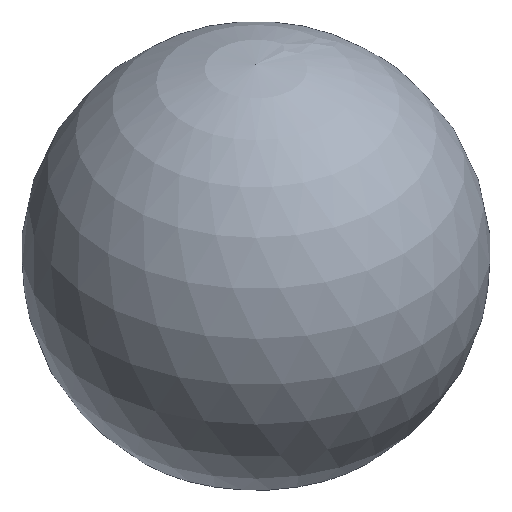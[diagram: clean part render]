
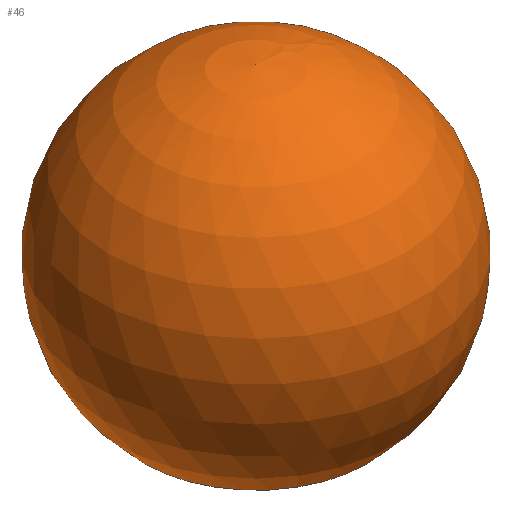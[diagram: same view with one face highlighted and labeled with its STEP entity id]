
A CAD part, isometric view. The second image highlights one B-rep face of the part: STEP entity #46.
In plain terms, the highlighted spherical face has radius 15.875 mm.
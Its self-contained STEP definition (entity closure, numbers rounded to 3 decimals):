
#20=CARTESIAN_POINT('',(0.,0.,11.775));
#21=DIRECTION('',(1.,0.,0.));
#22=DIRECTION('',(0.,0.,1.));
#23=AXIS2_PLACEMENT_3D('',#20,#22,#21);
#24=SPHERICAL_SURFACE('',#23,15.875);
#25=CARTESIAN_POINT('',(10.647,0.,0.));
#26=VERTEX_POINT('',#25);
#27=CARTESIAN_POINT('',(0.,0.,27.65));
#28=VERTEX_POINT('',#27);
#29=CARTESIAN_POINT('',(0.,0.,11.775));
#30=DIRECTION('',(0.671,0.,-0.742));
#31=DIRECTION('',(0.,-1.,0.));
#32=AXIS2_PLACEMENT_3D('',#29,#31,#30);
#33=CIRCLE('',#32,15.875);
#34=EDGE_CURVE('',#26,#28,#33,.T.);
#35=ORIENTED_EDGE('E1',*,*,#34,.T.);
#36=ORIENTED_EDGE('E2',*,*,#34,.F.);
#37=CARTESIAN_POINT('',(0.,0.,0.));
#38=DIRECTION('',(1.,-0.,-0.));
#39=DIRECTION('',(0.,-0.,1.));
#40=AXIS2_PLACEMENT_3D('',#37,#39,#38);
#41=CIRCLE('',#40,10.647);
#42=EDGE_CURVE('',#26,#26,#41,.T.);
#43=ORIENTED_EDGE('E3',*,*,#42,.F.);
#44=EDGE_LOOP('',(#35,#36,#43));
#45=FACE_OUTER_BOUND('',#44,.F.);
#46=ADVANCED_FACE('F1',(#45),#24,.T.);
